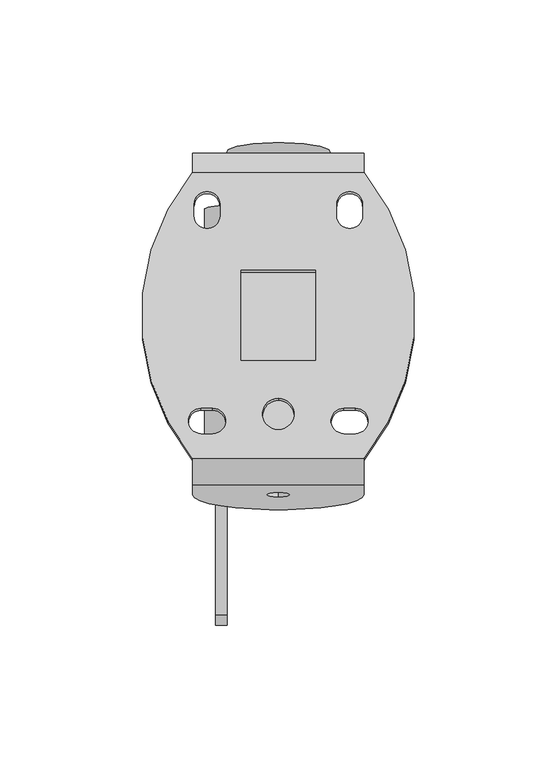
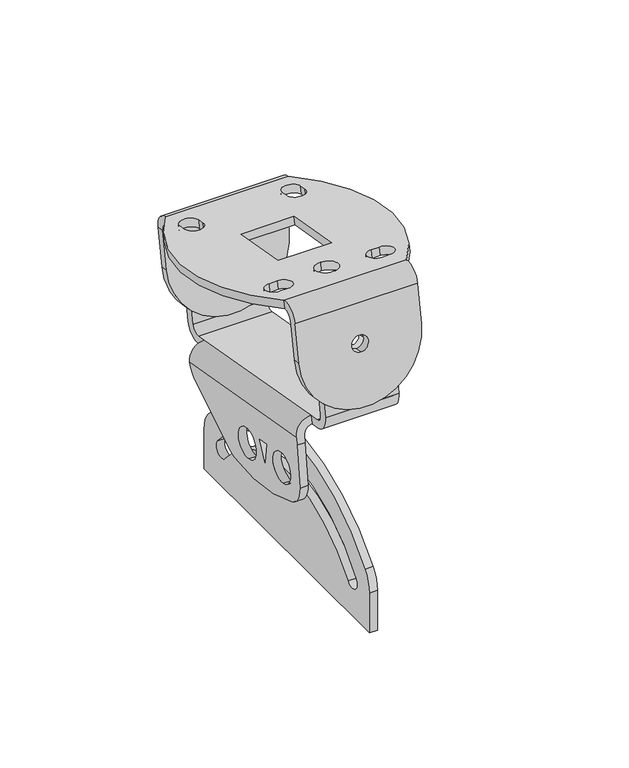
"""IFC4 building model written with IfcOpenShell, lengths in millimetres: proxy geometry, d&b U-Series U3 U5 Wall Mount : d&b U-Series U3 U5 Wall Mount."""

import ifcopenshell
import ifcopenshell.guid

model = None  # the IFC model being written
_history = None  # IfcOwnerHistory: only IFC2X3 demands one
_inside = {}  # id of a spatial element -> (the spatial element, [elements in it])
_under = {}  # id of a project, library or spatial element -> (it, [spatial elements below it])
_declared = {}  # id of a project -> (the project, [libraries it declares])
_typed = {}  # id of a type object -> (the type object, [elements of that type])
_made_of = {}  # id of a material, layer set ... -> (it, [elements and type objects made of it])


def new_model(schema):
    """Start an empty IFC model of exactly this schema.

    Asked for "IFC4X3", IfcOpenShell would pick the latest addendum, in which some entities
    have other attributes; the version numbers below select the first issue.
    IFC2X3 requires an IfcOwnerHistory on every rooted entity: one is made here for all.
    """
    global model, _history
    if schema == "IFC4X3":
        model = ifcopenshell.file(schema_version=(4, 3, 0, 0))
    else:
        model = ifcopenshell.file(schema=schema)
    _inside.clear()
    _under.clear()
    _declared.clear()
    _typed.clear()
    _made_of.clear()
    _history = None
    if model.schema == "IFC2X3":
        org = make("IfcOrganization", Name="unknown")
        user = make(
            "IfcPersonAndOrganization",
            ThePerson=make("IfcPerson", FamilyName="unknown"),
            TheOrganization=org,
        )
        app = make(
            "IfcApplication",
            ApplicationDeveloper=org,
            Version="unknown",
            ApplicationFullName="unknown",
            ApplicationIdentifier="unknown",
        )
        _history = make(
            "IfcOwnerHistory",
            OwningUser=user,
            OwningApplication=app,
            ChangeAction="ADDED",
            CreationDate=0,
        )
    return model


def make(cls, **values):
    """One entity of the class cls with the attributes given. An attribute that is None is left unset."""
    return model.create_entity(
        cls, **{name: value for name, value in values.items() if value is not None}
    )


def rooted(cls, **values):
    """An entity with a GlobalId (a new one), such as an element, a storey or a relation."""
    return make(cls, GlobalId=ifcopenshell.guid.new(), OwnerHistory=_history, **values)


def si_unit(unit_type, name, prefix=None):
    """IfcSIUnit, for example si_unit("LENGTHUNIT", "METRE", prefix="MILLI")."""
    return make("IfcSIUnit", UnitType=unit_type, Prefix=prefix, Name=name)


def assignment(units):
    """IfcUnitAssignment: the units of a project."""
    return None if units is None else make("IfcUnitAssignment", Units=units)


def point(xyz):
    """IfcCartesianPoint."""
    return None if xyz is None else make("IfcCartesianPoint", Coordinates=xyz)


def direction(xyz):
    """IfcDirection."""
    return None if xyz is None else make("IfcDirection", DirectionRatios=xyz)


def frame(location, z_axis=None, x_axis=None):
    """IfcAxis2Placement3D, a coordinate frame: its origin and axes. An axis left out is left unset."""
    return make(
        "IfcAxis2Placement3D",
        Location=point(location),
        Axis=direction(z_axis),
        RefDirection=direction(x_axis),
    )


def frame_2d(location, x_axis=None):
    """IfcAxis2Placement2D, a coordinate frame in the plane: its origin and x axis."""
    return make(
        "IfcAxis2Placement2D", Location=point(location), RefDirection=direction(x_axis)
    )


def origin():
    """The frame at (0, 0, 0) with its axes left unset."""
    return frame((0.0, 0.0, 0.0))


def place(relative_to, where):
    """IfcLocalPlacement: puts the frame where relative to a parent placement (None: the world)."""
    return make(
        "IfcLocalPlacement", PlacementRelTo=relative_to, RelativePlacement=where
    )


def context(
    kind, dimensions, precision=None, world=None, true_north=None, identifier=None
):
    """IfcGeometricRepresentationContext, for example the 3D "Model" context."""
    return make(
        "IfcGeometricRepresentationContext",
        ContextIdentifier=identifier,
        ContextType=kind,
        CoordinateSpaceDimension=dimensions,
        Precision=precision,
        WorldCoordinateSystem=world,
        TrueNorth=true_north,
    )


def project(units=None, contexts=None):
    """IfcProject with its units and contexts."""
    return rooted(
        "IfcProject",
        Name="project",
        RepresentationContexts=contexts,
        UnitsInContext=assignment(units),
    )


def spatial(cls, under=None, at=None, **own):
    """A site, building, storey or space (cls), placed at a placement, below another one or the project."""
    s = rooted(cls, ObjectPlacement=at, **own)
    if under is not None:
        _under.setdefault(under.id(), (under, []))[1].append(s)
    return s


def polyline(points):
    """IfcPolyline through the points."""
    return make("IfcPolyline", Points=[point(p) for p in points])


def circle_curve(where, radius):
    """IfcCircle in the frame where."""
    return make("IfcCircle", Position=where, Radius=radius)


def trimmed(basis, trim1, trim2, sense, master):
    """IfcTrimmedCurve: the piece of a basis curve between two trims."""
    return make(
        "IfcTrimmedCurve",
        BasisCurve=basis,
        Trim1=trim1,
        Trim2=trim2,
        SenseAgreement=sense,
        MasterRepresentation=master,
    )


def segment(curve, same_sense, transition):
    """IfcCompositeCurveSegment."""
    return make(
        "IfcCompositeCurveSegment",
        Transition=transition,
        SameSense=same_sense,
        ParentCurve=curve,
    )


def composite_curve(segments, self_intersect=None):
    """IfcCompositeCurve: segments joined end to end."""
    return make("IfcCompositeCurve", Segments=segments, SelfIntersect=self_intersect)


def outline(outer, holes=None, kind="AREA"):
    """IfcArbitraryClosedProfileDef: a profile drawn as a closed curve; with holes, ...WithVoids."""
    if holes is None:
        return make("IfcArbitraryClosedProfileDef", ProfileType=kind, OuterCurve=outer)
    return make(
        "IfcArbitraryProfileDefWithVoids",
        ProfileType=kind,
        OuterCurve=outer,
        InnerCurves=holes,
    )


def extrude(swept, where, along, depth):
    """IfcExtrudedAreaSolid: the profile swept, set in the frame where, extruded along a direction by depth."""
    return make(
        "IfcExtrudedAreaSolid",
        SweptArea=swept,
        Position=where,
        ExtrudedDirection=direction(along),
        Depth=depth,
    )


def shape(context_of_items, identifier, shape_type, items):
    """IfcShapeRepresentation: the items that make up one representation, for example the "Body"."""
    return make(
        "IfcShapeRepresentation",
        ContextOfItems=context_of_items,
        RepresentationIdentifier=identifier,
        RepresentationType=shape_type,
        Items=items,
    )


def source(mapping_origin, context_of_items, identifier, shape_type, items):
    """IfcRepresentationMap: a shape defined once, which mapped items show again and again."""
    return make(
        "IfcRepresentationMap",
        MappingOrigin=mapping_origin,
        MappedRepresentation=shape(context_of_items, identifier, shape_type, items),
    )


def transform(
    local_origin,
    x_axis=None,
    y_axis=None,
    z_axis=None,
    scale=None,
    scale2=None,
    scale3=None,
    uniform=True,
):
    """IfcCartesianTransformationOperator3D, or its non-uniform kind. x_axis, y_axis, z_axis: its Axis1, 2, 3."""
    if uniform:
        return make(
            "IfcCartesianTransformationOperator3D",
            Axis1=direction(x_axis),
            Axis2=direction(y_axis),
            LocalOrigin=point(local_origin),
            Scale=scale,
            Axis3=direction(z_axis),
        )
    return make(
        "IfcCartesianTransformationOperator3DnonUniform",
        Axis1=direction(x_axis),
        Axis2=direction(y_axis),
        LocalOrigin=point(local_origin),
        Scale=scale,
        Axis3=direction(z_axis),
        Scale2=scale2,
        Scale3=scale3,
    )


def mapped(mapping_source, mapping_target):
    """IfcMappedItem: shows the shape of a source again, moved by a transform."""
    return make(
        "IfcMappedItem", MappingSource=mapping_source, MappingTarget=mapping_target
    )


def made_of(thing, what):
    """Note that an element or type object is made of a material, layer set ...; save() writes the relation."""
    if what is not None:
        _made_of.setdefault(what.id(), (what, []))[1].append(thing)
    return thing


def element(
    cls,
    number,
    at=None,
    inside=None,
    cuts=None,
    type_object=None,
    material=None,
    context=None,
    identifier="Body",
    shape_type=None,
    held_by="IfcProductDefinitionShape",
    body=None,
    shapes=None,
    **own,
):
    """One element of the class cls, such as IfcWall. Its Tag is "e" and its number.

    at: its placement. inside: the storey or other place that contains it. cuts: it is an
    opening in that element (IfcRelVoidsElement). A single representation is given by context,
    identifier, shape_type and body (its items); several are given by shapes. held_by: the class
    of the entity that holds the representations. save() writes the other relations.
    """
    e = rooted(cls, Tag="e%d" % number, ObjectPlacement=at, **own)
    if body is not None:
        shapes = [shape(context, identifier, shape_type, body)]
    if shapes is not None:
        e.Representation = make(held_by, Representations=shapes)
    if inside is not None:
        _inside.setdefault(inside.id(), (inside, []))[1].append(e)
    if cuts is not None:
        rooted(
            "IfcRelVoidsElement", RelatingBuildingElement=cuts, RelatedOpeningElement=e
        )
    if type_object is not None:
        _typed.setdefault(type_object.id(), (type_object, []))[1].append(e)
    return made_of(e, material)


def aggregate(whole, parts):
    """IfcRelAggregates: a whole, such as a stair, and the parts it consists of."""
    return rooted("IfcRelAggregates", RelatingObject=whole, RelatedObjects=parts)


def save(model, path):
    """Write the relations noted so far, then the file.

    IfcRelAggregates (storeys below a building ...), IfcRelContainedInSpatialStructure (elements
    in a storey), IfcRelDefinesByType, IfcRelAssociatesMaterial and IfcRelDeclares: one each for
    every whole, place, type object, material and project.
    """
    for whole, parts in _under.values():
        aggregate(whole, parts)
    for where, things in _inside.values():
        rooted(
            "IfcRelContainedInSpatialStructure",
            RelatedElements=things,
            RelatingStructure=where,
        )
    for kind, things in _typed.values():
        rooted("IfcRelDefinesByType", RelatedObjects=things, RelatingType=kind)
    for what, things in _made_of.values():
        rooted("IfcRelAssociatesMaterial", RelatedObjects=things, RelatingMaterial=what)
    for by, libraries in _declared.values():
        rooted("IfcRelDeclares", RelatingContext=by, RelatedDefinitions=libraries)
    model.write(path)


def plane_surface(at):
    """IfcPlane: the flat surface through the origin of the frame at, square to its z axis."""
    return make("IfcPlane", Position=at)


def cylinder_surface(at, radius):
    """IfcCylindricalSurface: all points at the distance radius from the z axis of the frame at."""
    return make("IfcCylindricalSurface", Position=at, Radius=radius)


def revolved_surface(curve, axis_point, axis_direction):
    """IfcSurfaceOfRevolution: the curve turned about the line through axis_point along axis_direction."""
    return make(
        "IfcSurfaceOfRevolution",
        SweptCurve=make("IfcArbitraryOpenProfileDef", ProfileType="CURVE", Curve=curve),
        AxisPosition=make("IfcAxis1Placement", Location=point(axis_point), Axis=direction(axis_direction)),
    )


def advanced_brep(points, edges, surfaces, faces):
    """IfcAdvancedBrep: a solid bounded by faces that lie on surfaces and meet in shared edges.

    An edge is (start, end): straight between two places in points (the first is 0);
    or (start, end, curve); or (start, end, curve, False) where it runs against its curve.
    A face is (place in surfaces, loops), or (place, loops, False) where it looks against
    its surface's normal. A loop lists edges by number (the first is 1), with a minus sign
    where the edge is run from its end to its start. The first loop is the outer one.
    """
    corners = [point(p) for p in points]
    vertices = [make("IfcVertexPoint", VertexGeometry=c) for c in corners]
    made = []
    for start, end, *more in edges:
        made.append(
            make(
                "IfcEdgeCurve",
                EdgeStart=vertices[start],
                EdgeEnd=vertices[end],
                EdgeGeometry=more[0] if more else make("IfcPolyline", Points=[corners[start], corners[end]]),
                SameSense=more[1] if len(more) > 1 else True,
            )
        )
    hull = []
    for where, loops, *sense in faces:
        bounds = []
        for j, loop in enumerate(loops):
            ring = [make("IfcOrientedEdge", EdgeElement=made[abs(k) - 1], Orientation=k > 0) for k in loop]
            bounds.append(
                make(
                    "IfcFaceOuterBound" if j == 0 else "IfcFaceBound",
                    Bound=make("IfcEdgeLoop", EdgeList=ring),
                    Orientation=True,
                )
            )
        hull.append(make("IfcAdvancedFace", Bounds=bounds, FaceSurface=surfaces[where], SameSense=sense[0] if sense else True))
    return make("IfcAdvancedBrep", Outer=make("IfcClosedShell", CfsFaces=hull))


def communication_devices_4919dec1(model_context):
    return source(origin(), model_context, "Body", "SolidModel", [
        advanced_brep(
        [(29.9342872, 20.9501027, 137.0410832), (-30.0657128, 20.9501027, 137.0410832), (-30.0657128, 17.6507873, 118.3297359), (29.9342872, 17.6507873, 118.3297359), (-0.0657128, 16.9561946, 114.3905049), (-0.0657128, 18.34538, 122.2689669), (-30.0657128, 24.8893337, 136.3464905), (29.9342872, 24.8893337, 136.3464905), (29.9342872, 21.5900183, 117.6351432), (-30.0657128, 21.5900183, 117.6351432), (-0.0657128, 20.8954256, 113.6959122), (-0.0657128, 22.284611, 121.5743742), (29.9342872, 133.2181865, 117.245191), (29.9342872, 137.1574175, 116.5505983), (29.9342872, 130.6681409, 125.8182457), (29.9342872, 129.9735482, 121.8790147), (29.9342872, 29.5231574, 139.5911288), (29.9342872, 30.2177501, 143.5303598), (-30.0657128, 30.2177501, 143.5303598), (-30.0657128, 29.5231574, 139.5911288), (-30.0657128, 133.2181865, 117.245191), (-30.0657128, 129.9735482, 121.8790147), (-30.0657128, 130.6681409, 125.8182457), (-30.0657128, 137.1574175, 116.5505983), (-27.0657128, 39.0810199, 141.9675262), (-27.0657128, 47.9442897, 140.4046926), (-23.0657128, 47.9442897, 140.4046926), (-23.0657128, 39.0810199, 141.9675262), (26.9342872, 39.0810199, 141.9675262), (22.9342872, 39.0810199, 141.9675262), (22.9342872, 47.9442897, 140.4046926), (26.9342872, 47.9442897, 140.4046926), (-20.5657128, 119.3428518, 127.8151998), (-20.5657128, 115.4036208, 128.5097925), (-29.5657128, 115.4036208, 128.5097925), (-29.5657128, 119.3428518, 127.8151998), (20.4342872, 119.3428518, 127.8151998), (29.4342872, 119.3428518, 127.8151998), (29.4342872, 115.4036208, 128.5097925), (20.4342872, 115.4036208, 128.5097925), (-13.0657128, 64.6860215, 137.4526736), (-13.0657128, 96.1998696, 131.8959319), (12.9342872, 96.1998696, 131.8959319), (12.9342872, 64.6860215, 137.4526736), (-0.0657128, 51.3911168, 139.796924), (-0.0657128, 40.5582315, 141.707054), (-27.0657128, 38.3864272, 138.0282952), (-23.0657128, 38.3864272, 138.0282952), (-23.0657128, 47.249697, 136.4654616), (-27.0657128, 47.249697, 136.4654616), (26.9342872, 38.3864272, 138.0282952), (26.9342872, 47.249697, 136.4654616), (22.9342872, 47.249697, 136.4654616), (22.9342872, 38.3864272, 138.0282952), (-20.5657128, 118.6482591, 123.8759687), (-29.5657128, 118.6482591, 123.8759687), (-29.5657128, 114.7090281, 124.5705615), (-20.5657128, 114.7090281, 124.5705615), (20.4342872, 118.6482591, 123.8759687), (20.4342872, 114.7090281, 124.5705615), (29.4342872, 114.7090281, 124.5705615), (29.4342872, 118.6482591, 123.8759687), (-13.0657128, 63.9914288, 133.5134426), (12.9342872, 63.9914288, 133.5134426), (12.9342872, 95.5052769, 127.9567009), (-13.0657128, 95.5052769, 127.9567009), (-0.0657128, 50.6965241, 135.857693), (-0.0657128, 39.8636388, 137.767823)],
        [
            (0, 1),
            (1, 2),
            (2, 3, circle_curve(frame((-0.0657128, 17.6507873, 118.3297359), z_axis=(0.0, -0.9848077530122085, 0.17364817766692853), x_axis=(0.0, 0.17364817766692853, 0.9848077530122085)), 30.0)),
            (3, 0),
            (4, 5, circle_curve(frame((-0.0657128, 17.6507873, 118.3297359), z_axis=(0.0, 0.9848077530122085, -0.17364817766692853), x_axis=(0.0, 0.17364817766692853, 0.9848077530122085)), 4.0)),
            (5, 4, circle_curve(frame((-0.0657128, 17.6507873, 118.3297359), z_axis=(0.0, 0.9848077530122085, -0.17364817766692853), x_axis=(0.0, 0.17364817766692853, 0.9848077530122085)), 4.0)),
            (6, 7),
            (7, 8),
            (8, 9, circle_curve(frame((-0.0657128, 21.5900183, 117.6351432), z_axis=(0.0, 0.9848077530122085, -0.17364817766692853), x_axis=(0.0, 0.17364817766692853, 0.9848077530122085)), 30.0)),
            (9, 6),
            (10, 11, circle_curve(frame((-0.0657128, 21.5900183, 117.6351432), z_axis=(0.0, -0.9848077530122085, 0.17364817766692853), x_axis=(0.0, 0.17364817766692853, 0.9848077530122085)), 4.0)),
            (11, 10, circle_curve(frame((-0.0657128, 21.5900183, 117.6351432), z_axis=(0.0, -0.9848077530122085, 0.17364817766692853), x_axis=(0.0, 0.17364817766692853, 0.9848077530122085)), 4.0)),
            (12, 13),
            (13, 14, circle_curve(frame((29.9342872, 129.2789555, 117.9397837), z_axis=(1.0, 0.0, 0.0), x_axis=(0.0, 0.17364817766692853, 0.9848077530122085)), 8.0)),
            (14, 15),
            (15, 12, circle_curve(frame((29.9342872, 129.2789555, 117.9397837), z_axis=(-1.0, 0.0, 0.0), x_axis=(0.0, 0.17364817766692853, 0.9848077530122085)), 4.0)),
            (3, 8),
            (7, 16, circle_curve(frame((29.9342872, 28.8285647, 135.6518978), z_axis=(-1.0, 0.0, 0.0), x_axis=(0.0, 0.17364817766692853, 0.9848077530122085)), 4.0)),
            (16, 17),
            (17, 0, circle_curve(frame((29.9342872, 28.8285647, 135.6518978), z_axis=(1.0, 0.0, 0.0), x_axis=(0.0, 0.17364817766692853, 0.9848077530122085)), 8.0)),
            (2, 9),
            (1, 18, circle_curve(frame((-30.0657128, 28.8285647, 135.6518978), z_axis=(-1.0, 0.0, 0.0), x_axis=(0.0, 0.17364817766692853, 0.9848077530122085)), 8.0)),
            (18, 19),
            (19, 6, circle_curve(frame((-30.0657128, 28.8285647, 135.6518978), z_axis=(1.0, 0.0, 0.0), x_axis=(0.0, 0.17364817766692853, 0.9848077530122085)), 4.0)),
            (20, 21, circle_curve(frame((-30.0657128, 129.2789555, 117.9397837), z_axis=(1.0, 0.0, 0.0), x_axis=(0.0, 0.17364817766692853, 0.9848077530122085)), 4.0)),
            (21, 22),
            (22, 23, circle_curve(frame((-30.0657128, 129.2789555, 117.9397837), z_axis=(-1.0, 0.0, 0.0), x_axis=(0.0, 0.17364817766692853, 0.9848077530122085)), 8.0)),
            (23, 20),
            (5, 11),
            (10, 4),
            (19, 16),
            (17, 18),
            (23, 13),
            (12, 20),
            (22, 14),
            (15, 21),
            (17, 14, circle_curve(frame((-33.6132996, 80.4429455, 134.6743028), z_axis=(0.0, 0.17364817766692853, 0.9848077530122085), x_axis=(-1.0000000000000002, 0.0, 0.0)), 81.481874)),
            (22, 18, circle_curve(frame((33.481874, 80.4429455, 134.6743028), z_axis=(0.0, 0.17364817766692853, 0.9848077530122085), x_axis=(1.0000000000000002, 0.0, 0.0)), 81.481874)),
            (24, 25, circle_curve(frame((-27.0657128, 43.5126548, 141.1861094), z_axis=(0.0, -0.17364817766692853, -0.9848077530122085), x_axis=(1.0000000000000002, 0.0, 0.0)), 4.5)),
            (25, 26),
            (26, 27, circle_curve(frame((-23.0657128, 43.5126548, 141.1861094), z_axis=(0.0, -0.17364817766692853, -0.9848077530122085), x_axis=(1.0000000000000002, 0.0, 0.0)), 4.5)),
            (27, 24),
            (28, 29),
            (29, 30, circle_curve(frame((22.9342872, 43.5126548, 141.1861094), z_axis=(0.0, -0.17364817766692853, -0.9848077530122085), x_axis=(-1.0000000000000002, 0.0, 0.0)), 4.5)),
            (30, 31),
            (31, 28, circle_curve(frame((26.9342872, 43.5126548, 141.1861094), z_axis=(0.0, -0.17364817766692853, -0.9848077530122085), x_axis=(-1.0000000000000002, 0.0, 0.0)), 4.5)),
            (32, 33),
            (33, 34, circle_curve(frame((-25.0657128, 115.4036208, 128.5097925), z_axis=(0.0, -0.17364817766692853, -0.9848077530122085), x_axis=(1.0000000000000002, 0.0, 0.0)), 4.5)),
            (34, 35),
            (35, 32, circle_curve(frame((-25.0657128, 119.3428518, 127.8151998), z_axis=(0.0, -0.17364817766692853, -0.9848077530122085), x_axis=(1.0000000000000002, 0.0, 0.0)), 4.5)),
            (36, 37, circle_curve(frame((24.9342872, 119.3428518, 127.8151998), z_axis=(0.0, -0.17364817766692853, -0.9848077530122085), x_axis=(1.0000000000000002, 0.0, 0.0)), 4.5)),
            (37, 38),
            (38, 39, circle_curve(frame((24.9342872, 115.4036208, 128.5097925), z_axis=(0.0, -0.17364817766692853, -0.9848077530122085), x_axis=(1.0000000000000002, 0.0, 0.0)), 4.5)),
            (39, 36),
            (40, 41),
            (41, 42),
            (42, 43),
            (43, 40),
            (44, 45, circle_curve(frame((-0.0657128, 45.9746742, 140.751989), z_axis=(0.0, -0.17364817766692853, -0.9848077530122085), x_axis=(0.0, -0.9848077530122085, 0.17364817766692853)), 5.5)),
            (45, 44, circle_curve(frame((-0.0657128, 45.9746742, 140.751989), z_axis=(0.0, -0.17364817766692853, -0.9848077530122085), x_axis=(0.0, -0.9848077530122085, 0.17364817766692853)), 5.5)),
            (19, 21, circle_curve(frame((33.481874, 79.7483528, 130.7350718), z_axis=(0.0, -0.17364817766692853, -0.9848077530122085), x_axis=(1.0000000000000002, 0.0, 0.0)), 81.481874)),
            (15, 16, circle_curve(frame((-33.6132996, 79.7483528, 130.7350718), z_axis=(0.0, -0.17364817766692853, -0.9848077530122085), x_axis=(-1.0000000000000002, 0.0, 0.0)), 81.481874)),
            (46, 47),
            (47, 48, circle_curve(frame((-23.0657128, 42.8180621, 137.2468784), z_axis=(0.0, 0.17364817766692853, 0.9848077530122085), x_axis=(1.0000000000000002, 0.0, 0.0)), 4.5)),
            (48, 49),
            (49, 46, circle_curve(frame((-27.0657128, 42.8180621, 137.2468784), z_axis=(0.0, 0.17364817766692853, 0.9848077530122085), x_axis=(1.0000000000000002, 0.0, 0.0)), 4.5)),
            (50, 51, circle_curve(frame((26.9342872, 42.8180621, 137.2468784), z_axis=(0.0, 0.17364817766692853, 0.9848077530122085), x_axis=(-1.0000000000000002, 0.0, 0.0)), 4.5)),
            (51, 52),
            (52, 53, circle_curve(frame((22.9342872, 42.8180621, 137.2468784), z_axis=(0.0, 0.17364817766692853, 0.9848077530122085), x_axis=(-1.0000000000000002, 0.0, 0.0)), 4.5)),
            (53, 50),
            (54, 55, circle_curve(frame((-25.0657128, 118.6482591, 123.8759687), z_axis=(0.0, 0.17364817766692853, 0.9848077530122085), x_axis=(1.0000000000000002, 0.0, 0.0)), 4.5)),
            (55, 56),
            (56, 57, circle_curve(frame((-25.0657128, 114.7090281, 124.5705615), z_axis=(0.0, 0.17364817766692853, 0.9848077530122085), x_axis=(1.0000000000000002, 0.0, 0.0)), 4.5)),
            (57, 54),
            (58, 59),
            (59, 60, circle_curve(frame((24.9342872, 114.7090281, 124.5705615), z_axis=(0.0, 0.17364817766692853, 0.9848077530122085), x_axis=(1.0000000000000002, 0.0, 0.0)), 4.5)),
            (60, 61),
            (61, 58, circle_curve(frame((24.9342872, 118.6482591, 123.8759687), z_axis=(0.0, 0.17364817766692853, 0.9848077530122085), x_axis=(1.0000000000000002, 0.0, 0.0)), 4.5)),
            (62, 63),
            (63, 64),
            (64, 65),
            (65, 62),
            (66, 67, circle_curve(frame((-0.0657128, 45.2800815, 136.812758), z_axis=(0.0, 0.17364817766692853, 0.9848077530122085), x_axis=(0.0, -0.9848077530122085, 0.17364817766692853)), 5.5)),
            (67, 66, circle_curve(frame((-0.0657128, 45.2800815, 136.812758), z_axis=(0.0, 0.17364817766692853, 0.9848077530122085), x_axis=(0.0, -0.9848077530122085, 0.17364817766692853)), 5.5)),
            (27, 47),
            (46, 24),
            (26, 48),
            (25, 49),
            (31, 51),
            (50, 28),
            (30, 52),
            (29, 53),
            (35, 55),
            (54, 32),
            (34, 56),
            (33, 57),
            (39, 59),
            (58, 36),
            (38, 60),
            (37, 61),
            (43, 63),
            (62, 40),
            (42, 64),
            (41, 65),
            (45, 67),
            (66, 44),
        ],
        [
            plane_surface(frame((29.9342872, 17.6507873, 118.3297359), z_axis=(0.0, -0.9848077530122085, 0.17364817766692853), x_axis=(0.0, -0.17364817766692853, -0.9848077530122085))),
            plane_surface(frame((29.9342872, 21.5900183, 117.6351432), z_axis=(0.0, 0.9848077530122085, -0.17364817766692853), x_axis=(0.0, 0.17364817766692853, 0.9848077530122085))),
            plane_surface(frame((29.9342872, 20.9501027, 137.0410832), z_axis=(1.0000000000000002, 0.0, 0.0), x_axis=(0.0, 0.9848077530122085, -0.17364817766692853))),
            cylinder_surface(frame((-0.0657128, 21.5900183, 117.6351432), z_axis=(0.0, -0.9848077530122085, 0.17364817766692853), x_axis=(0.0, 0.17364817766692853, 0.9848077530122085)), 30.0),
            plane_surface(frame((-30.0657128, 17.6507873, 118.3297359), z_axis=(-1.0000000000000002, 0.0, 0.0), x_axis=(0.0, 0.9848077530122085, -0.17364817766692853))),
            revolved_surface(polyline([(-0.0657128, 22.284611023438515, 121.57437423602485), (-0.0657128, 18.345380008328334, 122.26896694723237)]), (-0.0657128, 86.58733, 106.1743635), (0.0, 0.9848077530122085, -0.17364817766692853)),
            revolved_surface(polyline([(29.9342872, 29.523157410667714, 139.59112881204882), (-30.06571280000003, 29.523157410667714, 139.59112881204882)]), (29.9342872, 28.8285647, 135.6518978), (1.0000000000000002, 0.0, 0.0)),
            cylinder_surface(frame((29.9342872, 28.8285647, 135.6518978), z_axis=(-1.0000000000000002, 0.0, 0.0), x_axis=(0.0, 0.17364817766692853, 0.9848077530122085)), 8.0),
            plane_surface(frame((-30.0657128, 133.2181865, 117.245191), z_axis=(0.0, -0.17364817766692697, -0.9848077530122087), x_axis=(1.0, 0.0, 0.0))),
            cylinder_surface(frame((-0.0657128, 129.2789555, 117.9397837), z_axis=(-1.0000000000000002, 0.0, 0.0), x_axis=(0.0, 0.17364817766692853, 0.9848077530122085)), 8.0),
            revolved_surface(polyline([(29.934287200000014, 129.9735482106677, 121.87901471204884), (-30.065712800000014, 129.9735482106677, 121.87901471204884)]), (-0.0657128, 129.2789555, 117.9397837), (1.0000000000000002, 0.0, 0.0)),
            plane_surface(frame((-31.6171318, 30.2177501, 143.5303598), z_axis=(0.0, 0.17364817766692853, 0.9848077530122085), x_axis=(-1.0, 0.0, 0.0))),
            plane_surface(frame((-31.6171318, 29.5231574, 139.5911288), z_axis=(0.0, -0.17364817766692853, -0.9848077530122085), x_axis=(1.0, 0.0, 0.0))),
            plane_surface(frame((-27.0657128, 39.0810199, 141.9675262), z_axis=(0.0, 0.9848077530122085, -0.17364817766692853), x_axis=(0.0, -0.17364817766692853, -0.9848077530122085))),
            revolved_surface(polyline([(-18.5657128, 42.81806208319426, 137.24687840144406), (-18.5657128, 43.512654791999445, 141.18610940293)]), (-23.0657128, 38.824154, 114.5963001), (0.0, -0.17364817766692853, -0.9848077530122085)),
            plane_surface(frame((-23.0657128, 47.9442897, 140.4046926), z_axis=(0.0, -0.9848077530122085, 0.17364817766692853), x_axis=(0.0, -0.17364817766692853, -0.9848077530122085))),
            revolved_surface(polyline([(-22.5657128, 42.81806208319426, 137.24687840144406), (-22.5657128, 43.512654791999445, 141.18610940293)]), (-27.0657128, 38.824154, 114.5963001), (0.0, -0.17364817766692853, -0.9848077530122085)),
            revolved_surface(polyline([(22.4342872, 42.81806208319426, 137.24687840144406), (22.4342872, 43.512654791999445, 141.18610940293)]), (26.9342872, 38.824154, 114.5963001), (0.0, -0.17364817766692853, -0.9848077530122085)),
            plane_surface(frame((26.9342872, 47.9442897, 140.4046926), z_axis=(0.0, -0.9848077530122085, 0.17364817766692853), x_axis=(0.0, -0.17364817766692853, -0.9848077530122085))),
            revolved_surface(polyline([(18.4342872, 42.81806208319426, 137.24687840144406), (18.4342872, 43.512654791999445, 141.18610940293)]), (22.9342872, 38.824154, 114.5963001), (0.0, -0.17364817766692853, -0.9848077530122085)),
            plane_surface(frame((22.9342872, 39.0810199, 141.9675262), z_axis=(0.0, 0.9848077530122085, -0.17364817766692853), x_axis=(0.0, -0.17364817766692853, -0.9848077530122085))),
            revolved_surface(polyline([(-20.5657128, 118.64825908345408, 123.8759687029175), (-20.5657128, 119.34285180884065, 127.81519979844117)]), (-25.0657128, 114.654351, 101.2253904), (0.0, -0.17364817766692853, -0.9848077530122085)),
            plane_surface(frame((-29.5657128, 119.3428518, 127.8151998), z_axis=(1.0000000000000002, 0.0, 0.0), x_axis=(0.0, -0.17364817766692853, -0.9848077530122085))),
            revolved_surface(polyline([(-20.5657128, 114.70902810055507, 124.57056149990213), (-20.5657128, 115.40362080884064, 128.50979249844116)]), (-25.0657128, 110.71512, 101.9199831), (0.0, -0.17364817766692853, -0.9848077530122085)),
            plane_surface(frame((-20.5657128, 115.4036208, 128.5097925), z_axis=(-1.0000000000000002, 0.0, 0.0), x_axis=(0.0, -0.17364817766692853, -0.9848077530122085))),
            plane_surface(frame((20.4342872, 119.3428518, 127.8151998), z_axis=(1.0000000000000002, 0.0, 0.0), x_axis=(0.0, -0.17364817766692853, -0.9848077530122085))),
            revolved_surface(polyline([(29.4342872, 114.70902810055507, 124.57056149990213), (29.4342872, 115.40362080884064, 128.50979249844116)]), (24.9342872, 110.71512, 101.9199831), (0.0, -0.17364817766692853, -0.9848077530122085)),
            plane_surface(frame((29.4342872, 115.4036208, 128.5097925), z_axis=(-1.0000000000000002, 0.0, 0.0), x_axis=(0.0, -0.17364817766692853, -0.9848077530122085))),
            revolved_surface(polyline([(29.4342872, 118.64825908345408, 123.8759687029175), (29.4342872, 119.34285180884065, 127.81519979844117)]), (24.9342872, 114.654351, 101.2253904), (0.0, -0.17364817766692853, -0.9848077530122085)),
            plane_surface(frame((-13.0657128, 64.6860215, 137.4526736), z_axis=(0.0, 0.9848077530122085, -0.17364817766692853), x_axis=(0.0, -0.17364817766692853, -0.9848077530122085))),
            plane_surface(frame((12.9342872, 64.6860215, 137.4526736), z_axis=(-1.0000000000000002, 0.0, 0.0), x_axis=(0.0, -0.17364817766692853, -0.9848077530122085))),
            plane_surface(frame((12.9342872, 96.1998696, 131.8959319), z_axis=(0.0, -0.9848077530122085, 0.17364817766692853), x_axis=(0.0, -0.17364817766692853, -0.9848077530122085))),
            plane_surface(frame((-13.0657128, 96.1998696, 131.8959319), z_axis=(1.0000000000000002, 0.0, 0.0), x_axis=(0.0, -0.17364817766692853, -0.9848077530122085))),
            revolved_surface(polyline([(-0.0657128, 39.86363883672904, 137.7678229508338), (-0.0657128, 40.558231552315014, 141.70705399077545)]), (-0.0657128, 41.2861734, 114.1621797), (0.0, -0.17364817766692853, -0.9848077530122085)),
            cylinder_surface(frame((33.481874, 79.7483528, 130.7350718), z_axis=(0.0, 0.17364817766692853, 0.9848077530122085), x_axis=(1.0000000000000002, 0.0, 0.0)), 81.481874),
            cylinder_surface(frame((-33.6132996, 79.7483528, 130.7350718), z_axis=(0.0, 0.17364817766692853, 0.9848077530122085), x_axis=(-1.0000000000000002, 0.0, 0.0)), 81.481874),
        ],
        [
            (0, [[1, 2, 3, 4], [5, 6]]),
            (1, [[7, 8, 9, 10], [11, 12]]),
            (2, [[13, 14, 15, 16]]),
            (2, [[17, -8, 18, 19, 20, -4]]),
            (3, [[21, -9, -17, -3]]),
            (4, [[22, 23, 24, -10, -21, -2]]),
            (4, [[25, 26, 27, 28]]),
            (5, [[29, -11, 30, -6]]),
            (5, [[-30, -12, -29, -5]]),
            (6, [[31, -18, -7, -24]]),
            (7, [[-1, -20, 32, -22]]),
            (8, [[33, -13, 34, -28]]),
            (9, [[35, -14, -33, -27]]),
            (10, [[-34, -16, 36, -25]]),
            (11, [[-32, 37, -35, 38], [39, 40, 41, 42], [43, 44, 45, 46], [47, 48, 49, 50], [51, 52, 53, 54], [55, 56, 57, 58], [59, 60]]),
            (12, [[-31, 61, -36, 62], [63, 64, 65, 66], [67, 68, 69, 70], [71, 72, 73, 74], [75, 76, 77, 78], [79, 80, 81, 82], [83, 84]]),
            (13, [[85, -63, 86, -42]]),
            (14, [[87, -64, -85, -41]]),
            (15, [[88, -65, -87, -40]]),
            (16, [[-86, -66, -88, -39]]),
            (17, [[89, -67, 90, -46]]),
            (18, [[91, -68, -89, -45]]),
            (19, [[92, -69, -91, -44]]),
            (20, [[-90, -70, -92, -43]]),
            (21, [[93, -71, 94, -50]]),
            (22, [[95, -72, -93, -49]]),
            (23, [[96, -73, -95, -48]]),
            (24, [[-94, -74, -96, -47]]),
            (25, [[97, -75, 98, -54]]),
            (26, [[99, -76, -97, -53]]),
            (27, [[100, -77, -99, -52]]),
            (28, [[-98, -78, -100, -51]]),
            (29, [[101, -79, 102, -58]]),
            (30, [[103, -80, -101, -57]]),
            (31, [[104, -81, -103, -56]]),
            (32, [[-102, -82, -104, -55]]),
            (33, [[105, -83, 106, -60]]),
            (33, [[-106, -84, -105, -59]]),
            (34, [[-26, -61, -23, -38]]),
            (35, [[-19, -62, -15, -37]]),
        ],
    ),
        extrude(outline(composite_curve([segment(polyline([(19.0, 0.0), (0.0, 0.0)]), True, "CONTINUOUS"), segment(trimmed(circle_curve(frame_2d((0.0, 30.0)), 30.0), [point((0.0, 0.0))], [point((0.0, 60.0))], False, "CARTESIAN"), True, "CONTINUOUS"), segment(polyline([(0.0, 60.0), (19.0, 60.0), (19.0, 0.0)]), True, "CONTINUOUS")], self_intersect=False), holes=[composite_curve([segment(trimmed(circle_curve(frame_2d((0.0, 30.0)), 4.0), [point((-4.0000001, 30.0))], [point((4.0, 30.0))], True, "CARTESIAN"), True, "CONTINUOUS"), segment(trimmed(circle_curve(frame_2d((0.0, 30.0)), 4.0), [point((4.0, 30.0))], [point((-4.0000001, 30.0))], True, "CARTESIAN"), True, "CONTINUOUS")], self_intersect=False)]), frame((29.9342872, 133.8581022, 97.839251), z_axis=(0.0, -0.9848077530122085, 0.17364817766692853), x_axis=(0.0, 0.17364817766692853, 0.9848077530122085)), (0.0, 0.0, 1.0), 4.0),
        advanced_brep(
        [(-22.0, 82.6863439, 32.4812505), (-22.0, 112.3519595, 50.4080282), (-22.0, 117.5279607, 57.0553512), (-22.0, 26.9256475, 73.0309835), (-22.0, 26.292206, 69.4385584), (-22.0, 23.9133082, 48.7645932), (-22.0, 30.6948194, 37.509776), (-22.0, 79.2319778, 31.1885311), (-22.0, 57.9780366, 53.3396369), (-22.0, 53.2871315, 44.0125039), (-22.0, 52.0691901, 54.381526), (-22.0, 69.8413131, 52.3641569), (-22.0, 67.2346618, 37.5811023), (-22.0, 40.5877228, 57.5223542), (-22.0, 37.9810714, 42.7392996), (-26.0, 82.6863439, 32.4812505), (-26.0, 79.2319778, 31.1885311), (-26.0, 30.6948194, 37.509776), (-26.0, 23.9133082, 48.7645932), (-26.0, 26.292206, 69.4385584), (-26.0, 26.9256475, 73.0309835), (-26.0, 117.5279607, 57.0553512), (-26.0, 112.3519595, 50.4080282), (-26.0, 57.9780366, 53.3396369), (-26.0, 52.0691901, 54.381526), (-26.0, 53.2871315, 44.0125039), (-26.0, 69.8413131, 52.3641569), (-26.0, 67.2346618, 37.5811023), (-26.0, 40.5877228, 57.5223542), (-26.0, 37.9810714, 42.7392996), (-18.0, 27.6202402, 76.9702145), (-18.0, 28.3148329, 80.9094455), (-18.0, 118.9171462, 64.9338132), (-18.0, 118.2225535, 60.9945822), (18.0, 132.4142397, 66.6156179), (-18.0, 132.4142397, 66.6156179), (-18.0, 137.7973332, 97.1446583), (18.0, 137.7973332, 97.1446583), (-4.0, 137.7973332, 97.1446583), (4.0, 137.7973332, 97.1446583), (-18.0, 128.4750087, 67.3102106), (18.0, 128.4750087, 67.3102106), (18.0, 133.8581022, 97.839251), (-18.0, 133.8581022, 97.839251), (-4.0, 133.8581022, 97.839251), (4.0, 133.8581022, 97.839251), (18.0, 123.8411849, 64.0655723), (18.0, 23.3907941, 81.7776864), (18.0, 20.1461558, 86.4115102), (18.0, 25.5292493, 116.9405505), (18.0, 21.5900183, 117.6351432), (18.0, 16.2069248, 87.1061029), (18.0, 22.6962014, 77.8384554), (18.0, 123.1465922, 60.1263413), (-18.0, 123.1465922, 60.1263413), (-18.0, 123.8411849, 64.0655723), (-18.0, 23.3907941, 81.7776864), (-18.0, 22.6962014, 77.8384554), (-18.0, 16.2069248, 87.1061029), (-18.0, 21.5900183, 117.6351432), (-18.0, 25.5292493, 116.9405505), (-18.0, 20.1461558, 86.4115102), (-4.0, 25.5292493, 116.9405505), (4.0, 25.5292493, 116.9405505), (-4.0, 21.5900183, 117.6351432), (4.0, 21.5900183, 117.6351432)],
        [
            (0, 1),
            (1, 2, circle_curve(frame((-22.0, 106.2585276, 60.4915697), z_axis=(1.0, 0.0, 0.0), x_axis=(0.0, -0.17364817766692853, -0.9848077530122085)), 11.7816689)),
            (2, 3),
            (3, 4),
            (4, 5, circle_curve(frame((-22.0, 197.2668637, 39.2911132), z_axis=(1.0, 0.0, 0.0), x_axis=(0.0, -0.17364817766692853, -0.9848077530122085)), 173.6122173)),
            (5, 6, circle_curve(frame((-22.0, 35.5849243, 48.126759), z_axis=(1.0, 0.0, 0.0), x_axis=(0.0, -0.17364817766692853, -0.9848077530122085)), 11.6890314)),
            (6, 7, circle_curve(frame((-22.0, 65.1045734, 112.2173299), z_axis=(1.0, 0.0, 0.0), x_axis=(0.0, -0.17364817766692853, -0.9848077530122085)), 82.2511385)),
            (7, 0, circle_curve(frame((-22.0, 77.5143841, 41.0399205), z_axis=(1.0, 0.0, 0.0), x_axis=(0.0, -0.17364817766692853, -0.9848077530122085)), 10.0)),
            (8, 9),
            (9, 10),
            (10, 8),
            (11, 12, circle_curve(frame((-22.0, 68.5379874, 44.9726296), z_axis=(-1.0, 0.0, 0.0), x_axis=(0.0, -0.17364817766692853, -0.9848077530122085)), 7.5055535)),
            (12, 11, circle_curve(frame((-22.0, 68.5379874, 44.9726296), z_axis=(-1.0, 0.0, 0.0), x_axis=(0.0, -0.17364817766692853, -0.9848077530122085)), 7.5055535)),
            (13, 14, circle_curve(frame((-22.0, 39.2843971, 50.1308269), z_axis=(-1.0, 0.0, 0.0), x_axis=(0.0, -0.17364817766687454, -0.984807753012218)), 7.5055535)),
            (14, 13, circle_curve(frame((-22.0, 39.2843971, 50.1308269), z_axis=(-1.0, 0.0, 0.0), x_axis=(0.0, -0.17364817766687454, -0.984807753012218)), 7.5055535)),
            (15, 16, circle_curve(frame((-26.0, 77.5143841, 41.0399205), z_axis=(-1.0, 0.0, 0.0), x_axis=(0.0, -0.17364817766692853, -0.9848077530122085)), 10.0)),
            (16, 17, circle_curve(frame((-26.0, 65.1045734, 112.2173299), z_axis=(-1.0, 0.0, 0.0), x_axis=(0.0, -0.17364817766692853, -0.9848077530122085)), 82.2511385)),
            (17, 18, circle_curve(frame((-26.0, 35.5849243, 48.126759), z_axis=(-1.0, 0.0, 0.0), x_axis=(0.0, -0.17364817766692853, -0.9848077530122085)), 11.6890314)),
            (18, 19, circle_curve(frame((-26.0, 197.2668637, 39.2911132), z_axis=(-1.0, 0.0, 0.0), x_axis=(0.0, -0.17364817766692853, -0.9848077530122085)), 173.6122173)),
            (19, 20),
            (20, 21),
            (21, 22, circle_curve(frame((-26.0, 106.2585276, 60.4915697), z_axis=(-1.0, 0.0, 0.0), x_axis=(0.0, -0.17364817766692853, -0.9848077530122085)), 11.7816689)),
            (22, 15),
            (23, 24),
            (24, 25),
            (25, 23),
            (26, 27, circle_curve(frame((-26.0, 68.5379874, 44.9726296), z_axis=(1.0, 0.0, 0.0), x_axis=(0.0, -0.17364817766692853, -0.9848077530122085)), 7.5055535)),
            (27, 26, circle_curve(frame((-26.0, 68.5379874, 44.9726296), z_axis=(1.0, 0.0, 0.0), x_axis=(0.0, -0.17364817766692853, -0.9848077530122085)), 7.5055535)),
            (28, 29, circle_curve(frame((-26.0, 39.2843971, 50.1308269), z_axis=(1.0, 0.0, 0.0), x_axis=(0.0, -0.17364817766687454, -0.984807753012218)), 7.5055535)),
            (29, 28, circle_curve(frame((-26.0, 39.2843971, 50.1308269), z_axis=(1.0, 0.0, 0.0), x_axis=(0.0, -0.17364817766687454, -0.984807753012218)), 7.5055535)),
            (0, 15),
            (22, 1),
            (7, 16),
            (6, 17),
            (4, 19),
            (18, 5),
            (3, 30, circle_curve(frame((-18.0, 26.9256475, 73.0309835), z_axis=(0.0, 0.9848077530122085, -0.17364817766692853), x_axis=(1.0000000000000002, 0.0, 0.0)), 4.0)),
            (30, 31),
            (31, 20, circle_curve(frame((-18.0, 26.9256475, 73.0309835), z_axis=(0.0, -0.9848077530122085, 0.17364817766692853), x_axis=(1.0000000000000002, 0.0, 0.0)), 8.0)),
            (21, 2),
            (32, 33),
            (33, 2, circle_curve(frame((-18.0, 117.5279607, 57.0553512), z_axis=(0.0, -0.9848077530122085, 0.17364817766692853), x_axis=(1.0000000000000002, 0.0, 0.0)), 4.0)),
            (21, 32, circle_curve(frame((-18.0, 117.5279607, 57.0553512), z_axis=(0.0, 0.9848077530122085, -0.17364817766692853), x_axis=(1.0000000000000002, 0.0, 0.0)), 8.0)),
            (31, 32),
            (33, 30),
            (34, 35),
            (35, 36),
            (36, 37, circle_curve(frame((0.0, 137.7973332, 97.1446583), z_axis=(0.0, 0.9848077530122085, -0.17364817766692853), x_axis=(1.0000000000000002, 0.0, 0.0)), 18.0)),
            (37, 34),
            (38, 39, circle_curve(frame((0.0, 137.7973332, 97.1446583), z_axis=(0.0, -0.9848077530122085, 0.17364817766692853), x_axis=(1.0000000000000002, 0.0, 0.0)), 4.0)),
            (39, 38, circle_curve(frame((0.0, 137.7973332, 97.1446583), z_axis=(0.0, -0.9848077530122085, 0.17364817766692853), x_axis=(1.0000000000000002, 0.0, 0.0)), 4.0)),
            (40, 41),
            (41, 42),
            (42, 43, circle_curve(frame((0.0, 133.8581022, 97.839251), z_axis=(0.0, -0.9848077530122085, 0.17364817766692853), x_axis=(1.0000000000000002, 0.0, 0.0)), 18.0)),
            (43, 40),
            (44, 45, circle_curve(frame((0.0, 133.8581022, 97.839251), z_axis=(0.0, 0.9848077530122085, -0.17364817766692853), x_axis=(1.0000000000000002, 0.0, 0.0)), 4.0)),
            (45, 44, circle_curve(frame((0.0, 133.8581022, 97.839251), z_axis=(0.0, 0.9848077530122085, -0.17364817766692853), x_axis=(1.0000000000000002, 0.0, 0.0)), 4.0)),
            (37, 42),
            (41, 46, circle_curve(frame((18.0, 124.5357776, 68.0048033), z_axis=(-1.0, 0.0, 0.0), x_axis=(0.0, -0.17364817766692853, -0.9848077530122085)), 4.0)),
            (46, 47),
            (47, 48, circle_curve(frame((18.0, 24.0853868, 85.7169175), z_axis=(-1.0, 0.0, 0.0), x_axis=(0.0, -0.17364817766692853, -0.9848077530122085)), 4.0)),
            (48, 49),
            (49, 50),
            (50, 51),
            (51, 52, circle_curve(frame((18.0, 24.0853868, 85.7169175), z_axis=(1.0, 0.0, 0.0), x_axis=(0.0, -0.17364817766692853, -0.9848077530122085)), 8.0)),
            (52, 53),
            (53, 34, circle_curve(frame((18.0, 124.5357776, 68.0048033), z_axis=(1.0, 0.0, 0.0), x_axis=(0.0, -0.17364817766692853, -0.9848077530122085)), 8.0)),
            (36, 43),
            (35, 54, circle_curve(frame((-18.0, 124.5357776, 68.0048033), z_axis=(-1.0, 0.0, 0.0), x_axis=(0.0, -0.17364817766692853, -0.9848077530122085)), 8.0)),
            (54, 33),
            (32, 55),
            (55, 40, circle_curve(frame((-18.0, 124.5357776, 68.0048033), z_axis=(1.0, 0.0, 0.0), x_axis=(0.0, -0.17364817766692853, -0.9848077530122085)), 4.0)),
            (56, 31),
            (30, 57),
            (57, 58, circle_curve(frame((-18.0, 24.0853868, 85.7169175), z_axis=(-1.0, 0.0, 0.0), x_axis=(0.0, -0.17364817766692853, -0.9848077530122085)), 8.0)),
            (58, 59),
            (59, 60),
            (60, 61),
            (61, 56, circle_curve(frame((-18.0, 24.0853868, 85.7169175), z_axis=(1.0, 0.0, 0.0), x_axis=(0.0, -0.17364817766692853, -0.9848077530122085)), 4.0)),
            (39, 45),
            (44, 38),
            (48, 61),
            (60, 49, circle_curve(frame((0.0, 25.5292493, 116.9405505), z_axis=(0.0, 0.9848077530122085, -0.17364817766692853), x_axis=(1.0000000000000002, 0.0, 0.0)), 18.0)),
            (62, 63, circle_curve(frame((0.0, 25.5292493, 116.9405505), z_axis=(0.0, -0.9848077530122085, 0.17364817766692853), x_axis=(1.0000000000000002, 0.0, 0.0)), 4.0)),
            (63, 62, circle_curve(frame((0.0, 25.5292493, 116.9405505), z_axis=(0.0, -0.9848077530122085, 0.17364817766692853), x_axis=(1.0000000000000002, 0.0, 0.0)), 4.0)),
            (58, 51),
            (50, 59, circle_curve(frame((0.0, 21.5900183, 117.6351432), z_axis=(0.0, -0.9848077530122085, 0.17364817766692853), x_axis=(1.0000000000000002, 0.0, 0.0)), 18.0)),
            (64, 65, circle_curve(frame((0.0, 21.5900183, 117.6351432), z_axis=(0.0, 0.9848077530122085, -0.17364817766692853), x_axis=(1.0000000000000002, 0.0, 0.0)), 4.0)),
            (65, 64, circle_curve(frame((0.0, 21.5900183, 117.6351432), z_axis=(0.0, 0.9848077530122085, -0.17364817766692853), x_axis=(1.0000000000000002, 0.0, 0.0)), 4.0)),
            (63, 65),
            (64, 62),
            (53, 54),
            (52, 57),
            (47, 56),
            (46, 55),
            (10, 24),
            (23, 8),
            (9, 25),
            (12, 27),
            (26, 11),
            (14, 29),
            (28, 13),
        ],
        [
            plane_surface(frame((-22.0, 75.7779023, 31.1918429), z_axis=(1.0000000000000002, 0.0, 0.0), x_axis=(0.0, -0.9848077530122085, 0.17364817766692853))),
            plane_surface(frame((-26.0, 75.7779023, 31.1918429), z_axis=(-1.0000000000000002, 0.0, 0.0), x_axis=(0.0, 0.9848077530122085, -0.17364817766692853))),
            plane_surface(frame((-22.0, 112.3519595, 50.4080282), z_axis=(0.0, 0.5171959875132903, -0.8558669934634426), x_axis=(-1.0, 0.0, 0.0))),
            cylinder_surface(frame((-26.0, 77.5143841, 41.0399205), z_axis=(1.0000000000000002, 0.0, 0.0), x_axis=(0.0, -0.17364817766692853, -0.9848077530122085)), 10.0),
            cylinder_surface(frame((-26.0, 65.1045734, 112.2173299), z_axis=(1.0000000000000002, 0.0, 0.0), x_axis=(0.0, -0.17364817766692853, -0.9848077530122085)), 82.2511385),
            cylinder_surface(frame((-26.0, 197.2668637, 39.2911132), z_axis=(1.0000000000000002, 0.0, 0.0), x_axis=(0.0, -0.17364817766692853, -0.9848077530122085)), 173.6122173),
            plane_surface(frame((-22.0, 26.292206, 69.4385584), z_axis=(0.0, -0.9848077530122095, 0.1736481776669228), x_axis=(-1.0, 0.0, 0.0))),
            cylinder_surface(frame((-26.0, 106.2585276, 60.4915697), z_axis=(1.0000000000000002, 0.0, 0.0), x_axis=(0.0, -0.17364817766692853, -0.9848077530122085)), 11.7816689),
            cylinder_surface(frame((-26.0, 35.5849243, 48.126759), z_axis=(1.0000000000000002, 0.0, 0.0), x_axis=(0.0, -0.17364817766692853, -0.9848077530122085)), 11.6890314),
            plane_surface(frame((-18.0, 118.9171462, 64.9338132), z_axis=(0.0, 0.9848077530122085, -0.17364817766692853), x_axis=(0.0, 0.17364817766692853, 0.9848077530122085))),
            cylinder_surface(frame((-18.0, 26.9256475, 73.0309835), z_axis=(0.0, 0.9848077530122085, -0.17364817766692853), x_axis=(1.0000000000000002, 0.0, 0.0)), 8.0),
            revolved_surface(polyline([(-14.0, 26.925647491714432, 73.03098350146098), (-14.0, 117.52796078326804, 57.05535115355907)]), (-18.0, 26.9256475, 73.0309835), (0.0, -0.9848077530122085, 0.17364817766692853)),
            plane_surface(frame((18.0, 132.4142397, 66.6156179), z_axis=(0.0, 0.9848077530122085, -0.17364817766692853), x_axis=(0.0, 0.17364817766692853, 0.9848077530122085))),
            plane_surface(frame((18.0, 128.4750087, 67.3102106), z_axis=(0.0, -0.9848077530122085, 0.17364817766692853), x_axis=(0.0, -0.17364817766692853, -0.9848077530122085))),
            plane_surface(frame((18.0, 132.4142397, 66.6156179), z_axis=(1.0000000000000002, 0.0, 0.0), x_axis=(0.0, -0.9848077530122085, 0.17364817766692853))),
            cylinder_surface(frame((0.0, 133.8581022, 97.839251), z_axis=(0.0, 0.9848077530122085, -0.17364817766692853), x_axis=(1.0000000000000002, 0.0, 0.0)), 18.0),
            plane_surface(frame((-18.0, 137.7973332, 97.1446583), z_axis=(-1.0000000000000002, 0.0, 0.0), x_axis=(0.0, -0.9848077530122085, 0.17364817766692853))),
            revolved_surface(polyline([(4.000000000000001, 133.8581021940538, 97.83925096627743), (4.000000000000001, 137.79733319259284, 97.14465825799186)]), (0.0, 64.9215595, 109.9946234), (0.0, -0.9848077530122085, 0.17364817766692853)),
            plane_surface(frame((18.0, 20.1461558, 86.4115102), z_axis=(0.0, 0.9848077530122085, -0.17364817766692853), x_axis=(0.0, 0.17364817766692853, 0.9848077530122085))),
            plane_surface(frame((18.0, 16.2069248, 87.1061029), z_axis=(0.0, -0.9848077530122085, 0.17364817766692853), x_axis=(0.0, -0.17364817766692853, -0.9848077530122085))),
            cylinder_surface(frame((0.0, 21.5900183, 117.6351432), z_axis=(0.0, 0.9848077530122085, -0.17364817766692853), x_axis=(1.0000000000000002, 0.0, 0.0)), 18.0),
            revolved_surface(polyline([(4.000000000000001, 21.59001831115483, 117.63514326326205), (4.000000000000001, 25.529249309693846, 116.94055055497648)]), (0.0, -47.3465244, 129.7905157), (0.0, -0.9848077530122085, 0.17364817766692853)),
            cylinder_surface(frame((-18.0, 124.5357776, 68.0048033), z_axis=(1.0000000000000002, 0.0, 0.0), x_axis=(0.0, -0.17364817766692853, -0.9848077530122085)), 8.0),
            plane_surface(frame((18.0, 123.1465922, 60.1263413), z_axis=(0.0, -0.17364817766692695, -0.9848077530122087), x_axis=(-1.0, 0.0, 0.0))),
            cylinder_surface(frame((-18.0, 24.0853868, 85.7169175), z_axis=(1.0000000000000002, 0.0, 0.0), x_axis=(0.0, -0.17364817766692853, -0.9848077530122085)), 8.0),
            revolved_surface(polyline([(-18.0, 23.390794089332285, 81.77768648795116), (18.000000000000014, 23.390794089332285, 81.77768648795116)]), (-18.0, 24.0853868, 85.7169175), (-1.0000000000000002, 0.0, 0.0)),
            plane_surface(frame((18.0, 23.3907941, 81.7776864), z_axis=(0.0, 0.17364817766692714, 0.9848077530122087), x_axis=(-1.0, 0.0, 0.0))),
            revolved_surface(polyline([(-18.0, 123.84118488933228, 64.06557228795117), (18.000000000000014, 123.84118488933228, 64.06557228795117)]), (-18.0, 124.5357776, 68.0048033), (-1.0000000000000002, 0.0, 0.0)),
            plane_surface(frame((-22.0, 57.9780366, 53.3396369), z_axis=(0.0, -0.17364817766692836, -0.9848077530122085), x_axis=(-1.0, 0.0, 0.0))),
            plane_surface(frame((-22.0, 52.0691901, 54.381526), z_axis=(0.0, 0.9931721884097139, 0.11665763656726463), x_axis=(-1.0, 0.0, 0.0))),
            plane_surface(frame((-22.0, 53.2871315, 44.0125039), z_axis=(0.0, -0.8933773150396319, 0.4493072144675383), x_axis=(-1.0, 0.0, 0.0))),
            revolved_surface(polyline([(-26.000000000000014, 67.23466171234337, 37.581102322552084), (-22.000000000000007, 67.23466171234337, 37.581102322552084)]), (0.0, 68.5379874, 44.9726296), (-1.0000000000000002, 0.0, 0.0)),
            revolved_surface(polyline([(-26.000000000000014, 37.981071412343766, 42.73929962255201), (-22.000000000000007, 37.981071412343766, 42.73929962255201)]), (0.0, 39.2843971, 50.1308269), (-1.0000000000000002, 0.0, 0.0)),
        ],
        [
            (0, [[1, 2, 3, 4, 5, 6, 7, 8], [9, 10, 11], [12, 13], [14, 15]]),
            (1, [[16, 17, 18, 19, 20, 21, 22, 23], [24, 25, 26], [27, 28], [29, 30]]),
            (2, [[31, -23, 32, -1]]),
            (3, [[33, -16, -31, -8]]),
            (4, [[34, -17, -33, -7]]),
            (5, [[35, -19, 36, -5]]),
            (6, [[37, 38, 39, -20, -35, -4]]),
            (7, [[-32, -22, 40, -2]]),
            (8, [[-36, -18, -34, -6]]),
            (9, [[41, 42, -40, 43]]),
            (10, [[-21, -39, 44, -43]]),
            (11, [[45, -37, -3, -42]]),
            (12, [[46, 47, 48, 49], [50, 51]]),
            (13, [[52, 53, 54, 55], [56, 57]]),
            (14, [[58, -53, 59, 60, 61, 62, 63, 64, 65, 66, 67, -49]]),
            (15, [[68, -54, -58, -48]]),
            (16, [[69, 70, -41, 71, 72, -55, -68, -47]]),
            (16, [[73, -38, 74, 75, 76, 77, 78, 79]]),
            (17, [[80, -56, 81, -51]]),
            (17, [[-81, -57, -80, -50]]),
            (18, [[82, -78, 83, -62], [84, 85]]),
            (19, [[86, -64, 87, -76], [88, 89]]),
            (20, [[-77, -87, -63, -83]]),
            (21, [[90, -88, 91, -85]]),
            (21, [[-91, -89, -90, -84]]),
            (22, [[92, -69, -46, -67]]),
            (23, [[93, -74, -45, -70, -92, -66]]),
            (24, [[-86, -75, -93, -65]]),
            (25, [[94, -79, -82, -61]]),
            (26, [[95, -71, -44, -73, -94, -60]]),
            (27, [[-52, -72, -95, -59]]),
            (28, [[96, -24, 97, -11]]),
            (29, [[98, -25, -96, -10]]),
            (30, [[-97, -26, -98, -9]]),
            (31, [[99, -27, 100, -13]]),
            (31, [[-100, -28, -99, -12]]),
            (32, [[101, -29, 102, -15]]),
            (32, [[-102, -30, -101, -14]]),
        ],
    ),
        extrude(outline(composite_curve([segment(trimmed(circle_curve(frame_2d((-12.0, 24.5421149)), 16.0), [point((-28.0, 24.5421149))], [point((-24.3428571, 34.7231697))], False, "CARTESIAN"), True, "CONTINUOUS"), segment(trimmed(circle_curve(frame_2d((42.0, -20.0)), 86.0), [point((-24.3428571, 34.7231697))], [point((108.3428571, 34.7231697))], False, "CARTESIAN"), True, "CONTINUOUS"), segment(trimmed(circle_curve(frame_2d((96.0, 24.5421149)), 16.0), [point((108.3428571, 34.7231697))], [point((112.0, 24.5421149))], False, "CARTESIAN"), True, "CONTINUOUS"), segment(polyline([(112.0, 24.5421149), (112.0, 4.0), (-28.0, 4.0), (-28.0, 24.5421149)]), True, "CONTINUOUS")], self_intersect=False), holes=[composite_curve([segment(trimmed(circle_curve(frame_2d((42.0, -20.0)), 65.85), [point((-10.2423175, 20.0869401))], [point((94.2423175, 20.0869401))], False, "CARTESIAN"), True, "CONTINUOUS"), segment(trimmed(circle_curve(frame_2d((97.5347338, 22.6133)), 4.15), [point((94.2423175, 20.0869401))], [point((100.8271502, 25.13966))], True, "CARTESIAN"), True, "CONTINUOUS"), segment(trimmed(circle_curve(frame_2d((42.0, -20.0)), 74.15), [point((100.8271502, 25.13966))], [point((-16.8271502, 25.13966))], True, "CARTESIAN"), True, "CONTINUOUS"), segment(trimmed(circle_curve(frame_2d((-13.5347338, 22.6133)), 4.15), [point((-16.8271502, 25.13966))], [point((-10.2423175, 20.0869401))], True, "CARTESIAN"), True, "CONTINUOUS")], self_intersect=False)]), frame((-22.0, 0.0, 0.0), z_axis=(1.0, 0.0, 0.0), x_axis=(0.0, 1.0, 0.0)), (0.0, 0.0, 1.0), 4.0),
    ])


if __name__ == "__main__":
    model = new_model("IFC4")
    model_context = context("Model", 3, world=origin())
    ifc_project = project(units=[si_unit("LENGTHUNIT", "METRE", prefix="MILLI")], contexts=[model_context])
    site = spatial("IfcSite", under=ifc_project)
    building = spatial("IfcBuilding", under=site)
    placement = place(None, origin())
    communication_devices_shape = communication_devices_4919dec1(model_context)
    element("IfcBuildingElementProxy", 1, Name="d&b U-Series U3 U5 Wall Mount : d&b U-Series U3 U5 Wall Mount", ObjectType="d&b U-Series U3 U5 Wall Mount : d&b U-Series U3 U5 Wall Mount", at=placement, inside=building, context=model_context, shape_type="MappedRepresentation", body=[
        mapped(communication_devices_shape, transform((0.0, 0.0, 0.0), x_axis=(1.0, 0.0, 0.0), y_axis=(0.0, 1.0, 0.0), z_axis=(0.0, 0.0, 1.0))),
    ])
    save(model, "model.ifc")
